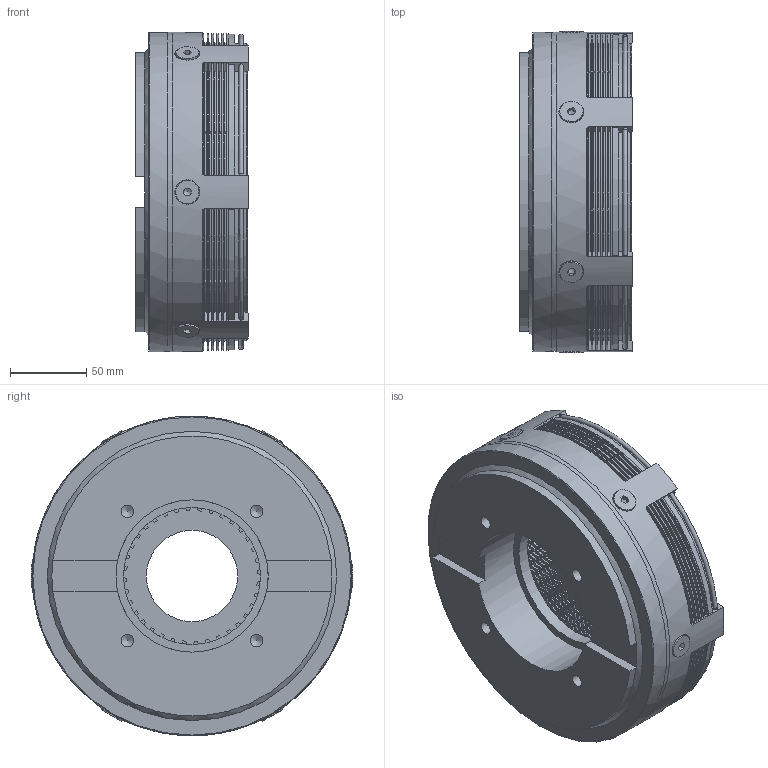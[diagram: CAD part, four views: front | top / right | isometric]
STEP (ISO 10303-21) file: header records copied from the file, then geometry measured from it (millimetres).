
FILE_DESCRIPTION(/* description */ (''),/* implementation_level */ '2;1');
FILE_NAME(/* name */ 'X:\INVENTOR\DISEGNI\05_Friz_Elettmag-Lam\05_02 ECF\05_02_210_01 ECF210\05_02_210_01 ECF210@STEP.stp',/* time_stamp */ '2023-03-06T10:46:45+01:00',/* author */ ('alessio'),/* organization */ (''),/* preprocessor_version */ 'ST-DEVELOPER v18.1',/* originating_system */ 'Autodesk Inventor 2021',/* authorisation */ '');
FILE_SCHEMA (('AUTOMOTIVE_DESIGN { 1 0 10303 214 3 1 1 }'));
Products named in the file (1): 05_02_210_01 ECF210
Bounding box: 74 x 211.42 x 210 mm (x, y, z)
Volume: 1739778.4 mm3; surface area: 576447.5 mm2
Topology: 1 solids, 15 shells, 2141 faces, 6736 edges, 4461 vertices
Faces by surface type: cylinder 1731, plane 365, cone 38, torus 7
Full cylindrical faces by diameter (mm): 3 x4, 6.647 x6, 8 x6, 8.376 x4, 8.5 x6, 9 x1, 15.24 x6, 60 x1, 90 x1, 100 x3, 142 x1, 144 x1, 168 x1, 170 x1, 190 x2, 191 x1, 210 x3
Entity records: 80398 total; most frequent: CARTESIAN_POINT 14738, DIRECTION 14623, ORIENTED_EDGE 13450, EDGE_CURVE 6725, AXIS2_PLACEMENT_3D 5905, VERTEX_POINT 4461, CIRCLE 3703, LINE 2813
